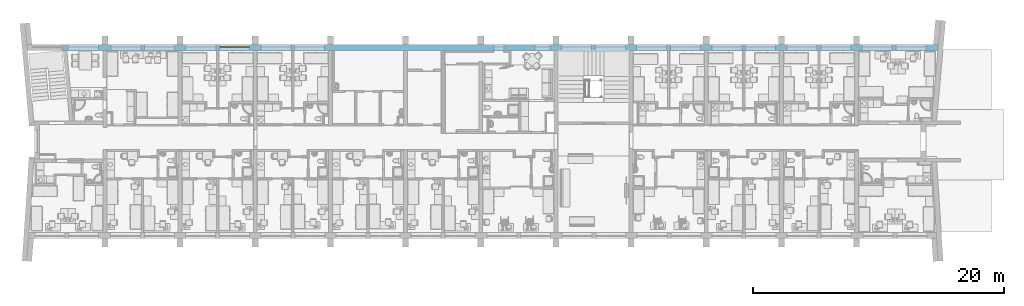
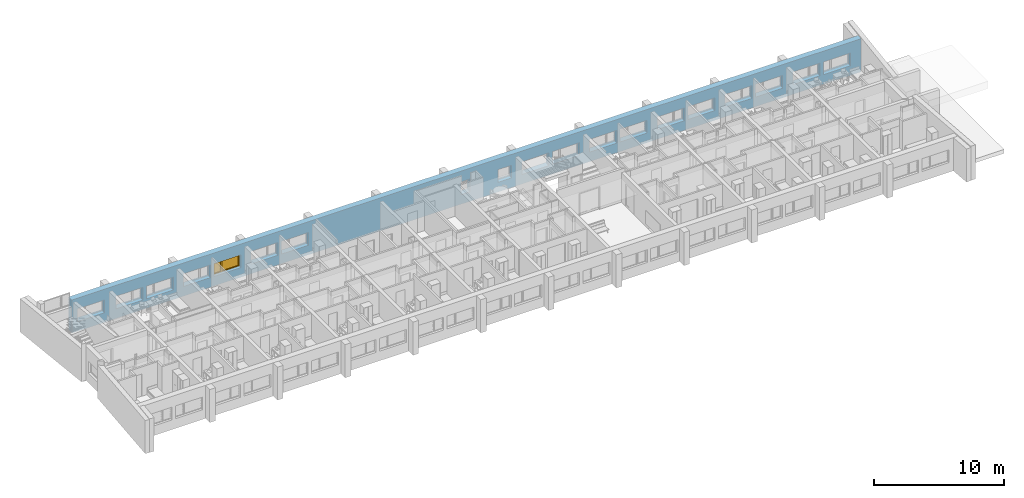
# One storey, part 21 of 172: 1 window, 19 openings, plus 1 element that does not belong to this part.
"""IFC2X3 building model written with IfcOpenShell, lengths in millimetres."""

from ifc_helpers import new_model, entity, si_unit, converted_unit, money_unit, direction, frame, origin_with_axes, place, context, subcontext, project, spatial, polyline, outline, extrude, open_shell, faceted_brep, surface_model, source, transform, mapped, material, material_list, layer, layer_set, layer_usage, type_object, element, fill, save


model = new_model("IFC2X3")

# Units and contexts
model_context = context("Model", 3, precision=1e-05, world=origin_with_axes(), true_north=direction((0.0, 1.0)))
body_context = subcontext(model_context, "Body", "Model", "MODEL_VIEW")
ifc_project = project(units=[si_unit("LENGTHUNIT", "METRE", prefix="MILLI"), si_unit("AREAUNIT", "SQUARE_METRE"), si_unit("VOLUMEUNIT", "CUBIC_METRE"), converted_unit("PLANEANGLEUNIT", "DEGREE", entity("IfcPlaneAngleMeasure", 0.0174532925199), si_unit("PLANEANGLEUNIT", "RADIAN"), dimensions=[0, 0, 0, 0, 0, 0, 0]), si_unit("SOLIDANGLEUNIT", "STERADIAN"), money_unit("USD"), converted_unit("TIMEUNIT", "Year", entity("IfcTimeMeasure", 31556926.0), si_unit("TIMEUNIT", "SECOND"), dimensions=[0, 0, 0, 0, 0, 0, 0]), si_unit("MASSUNIT", "GRAM"), si_unit("THERMODYNAMICTEMPERATUREUNIT", "DEGREE_CELSIUS"), si_unit("LUMINOUSINTENSITYUNIT", "LUMEN")], contexts=[model_context])

# Site, building, storey
site_placement = place(None, origin_with_axes())
site = spatial("IfcSite", under=ifc_project, at=site_placement, Name="Site", CompositionType="ELEMENT")
building_placement = place(site_placement, origin_with_axes())
building = spatial("IfcBuilding", under=site, at=building_placement, Name="Building", CompositionType="ELEMENT")
storey_placement = place(building_placement, frame((0.0, 0.0, 3200.0), z_axis=(0.0, 0.0, 1.0), x_axis=(1.0, 0.0, 0.0)))
storey = spatial("IfcBuildingStorey", under=building, at=storey_placement, Name="3KORRUS", CompositionType="ELEMENT", Elevation=3200.0)

# Wall, openings, window
ifc_material_1 = material(Name="Olemasolevad seinad tellis, uus viimistlus")
ifc_layer = layer(ifc_material_1, 500.0, ventilated="UNKNOWN")
ifc_layer_set = layer_set([ifc_layer], Name="Olemasolevad seinad tellis, uus viimistlus 500")
ifc_layer_usage = layer_usage(ifc_layer_set, "AXIS2", "POSITIVE", -100.0)
wall_type = type_object("IfcWallType", Name="Olemasolevad seinad tellis, uus viimistlus 500", PredefinedType="NOTDEFINED")
wall_placement = place(storey_placement, frame((-51569.3388124, -5039.6041088, 0.0), z_axis=(0.0, 0.0, 1.0), x_axis=(1.0, 0.0, 0.0)))
wall = element("IfcWallStandardCase", 1, at=wall_placement, inside=storey, type_object=wall_type, material=ifc_layer_usage, Name="VS1", ObjectType="VS1", context=body_context, shape_type="SweptSolid", body=[
    extrude(outline(polyline([(0.0, -100.0), (69914.7195482, -100.0), (69959.6995146, 400.0), (0.0, 400.0), (0.0, -100.0)])), origin_with_axes(), (0.0, 0.0, 1.0), 3100.0),
])
opening_1_placement = place(wall_placement, frame((34879.0421091, 0.0, 900.0), z_axis=(0.0, 0.0, 1.0), x_axis=(1.0, 0.0, 0.0)))
element("IfcOpeningElement", 2, at=opening_1_placement, cuts=wall, Name="WD - 001", context=body_context, shape_type="SweptSolid", body=[
    extrude(outline(polyline([(-400.0, 1200.0), (-400.0, 0.0), (400.0, 0.0), (400.0, 1200.0), (-400.0, 1200.0)])), frame((0.0, 200.0, 0.0), z_axis=(0.0, -1.0, 0.0), x_axis=(1.0, 0.0, 0.0)), (0.0, 0.0, 1.0), 800.0),
    extrude(outline(polyline([(-400.0, 0.0), (-400.0, -1200.0), (400.0, -1200.0), (400.0, 0.0), (-400.0, 0.0)])), frame((0.0, 200.0, 0.0), z_axis=(0.0, 1.0, 0.0), x_axis=(1.0, 0.0, 0.0)), (0.0, 0.0, 1.0), 700.0),
])
opening_2_placement = place(wall_placement, frame((38352.6323068, 0.0, 900.0), z_axis=(0.0, 0.0, 1.0), x_axis=(1.0, 0.0, 0.0)))
element("IfcOpeningElement", 3, at=opening_2_placement, cuts=wall, Name="A3", context=body_context, shape_type="SweptSolid", body=[
    extrude(outline(polyline([(-600.0, 1200.0), (-600.0, 0.0), (600.0, 0.0), (600.0, 1200.0), (-600.0, 1200.0)])), frame((0.0, 200.0, 0.0), z_axis=(0.0, -1.0, 0.0), x_axis=(1.0, 0.0, 0.0)), (0.0, 0.0, 1.0), 800.0),
    extrude(outline(polyline([(-600.0, 0.0), (-600.0, -1200.0), (600.0, -1200.0), (600.0, 0.0), (-600.0, 0.0)])), frame((0.0, 200.0, 0.0), z_axis=(0.0, 1.0, 0.0), x_axis=(1.0, 0.0, 0.0)), (0.0, 0.0, 1.0), 700.0),
])
opening_3_placement = place(wall_placement, frame((1700.0, 0.0, 900.0), z_axis=(0.0, 0.0, 1.0), x_axis=(1.0, 0.0, 0.0)))
element("IfcOpeningElement", 4, at=opening_3_placement, cuts=wall, Name="A1", context=body_context, shape_type="SweptSolid", body=[
    extrude(outline(polyline([(1200.0, 1200.0), (-1200.0, 1200.0), (-1200.0, 0.0), (1200.0, 0.0), (1200.0, 1200.0)])), frame((0.0, 200.0, 0.0), z_axis=(0.0, -1.0, 0.0), x_axis=(1.0, 0.0, 0.0)), (0.0, 0.0, 1.0), 800.0),
    extrude(outline(polyline([(1200.0, 0.0), (-1200.0, 0.0), (-1200.0, -1200.0), (1200.0, -1200.0), (1200.0, 0.0)])), frame((0.0, 200.0, 0.0), z_axis=(0.0, 1.0, 0.0), x_axis=(1.0, 0.0, 0.0)), (0.0, 0.0, 1.0), 700.0),
])
opening_4_placement = place(wall_placement, frame((7795.91085613, 0.0, 900.0), z_axis=(0.0, 0.0, 1.0), x_axis=(1.0, 0.0, 0.0)))
element("IfcOpeningElement", 5, at=opening_4_placement, cuts=wall, Name="A1", context=body_context, shape_type="SweptSolid", body=[
    extrude(outline(polyline([(1200.0, 1200.0), (-1200.0, 1200.0), (-1200.0, 0.0), (1200.0, 0.0), (1200.0, 1200.0)])), frame((0.0, 200.0, 0.0), z_axis=(0.0, -1.0, 0.0), x_axis=(1.0, 0.0, 0.0)), (0.0, 0.0, 1.0), 800.0),
    extrude(outline(polyline([(1200.0, 0.0), (-1200.0, 0.0), (-1200.0, -1200.0), (1200.0, -1200.0), (1200.0, 0.0)])), frame((0.0, 200.0, 0.0), z_axis=(0.0, 1.0, 0.0), x_axis=(1.0, 0.0, 0.0)), (0.0, 0.0, 1.0), 700.0),
])
opening_5_placement = place(wall_placement, frame((5095.91085613, 0.0, 900.0), z_axis=(0.0, 0.0, 1.0), x_axis=(1.0, 0.0, 0.0)))
element("IfcOpeningElement", 6, at=opening_5_placement, cuts=wall, Name="A2", context=body_context, shape_type="SweptSolid", body=[
    extrude(outline(polyline([(-1200.0, 1200.0), (-1200.0, 0.0), (1200.0, 0.0), (1200.0, 1200.0), (-1200.0, 1200.0)])), frame((0.0, 200.0, 0.0), z_axis=(0.0, -1.0, 0.0), x_axis=(1.0, 0.0, 0.0)), (0.0, 0.0, 1.0), 800.0),
    extrude(outline(polyline([(-1200.0, 0.0), (-1200.0, -1200.0), (1200.0, -1200.0), (1200.0, 0.0), (-1200.0, 0.0)])), frame((0.0, 200.0, 0.0), z_axis=(0.0, 1.0, 0.0), x_axis=(1.0, 0.0, 0.0)), (0.0, 0.0, 1.0), 700.0),
])
opening_6_placement = place(wall_placement, frame((13779.0421091, 0.0, 900.0), z_axis=(0.0, 0.0, 1.0), x_axis=(1.0, 0.0, 0.0)))
opening_6 = element("IfcOpeningElement", 7, at=opening_6_placement, cuts=wall, Name="A1", context=body_context, shape_type="SweptSolid", body=[
    extrude(outline(polyline([(1200.0, 1200.0), (-1200.0, 1200.0), (-1200.0, 0.0), (1200.0, 0.0), (1200.0, 1200.0)])), frame((0.0, 200.0, 0.0), z_axis=(0.0, -1.0, 0.0), x_axis=(1.0, 0.0, 0.0)), (0.0, 0.0, 1.0), 800.0),
    extrude(outline(polyline([(1200.0, 0.0), (-1200.0, 0.0), (-1200.0, -1200.0), (1200.0, -1200.0), (1200.0, 0.0)])), frame((0.0, 200.0, 0.0), z_axis=(0.0, 1.0, 0.0), x_axis=(1.0, 0.0, 0.0)), (0.0, 0.0, 1.0), 700.0),
])
opening_7_placement = place(wall_placement, frame((11079.0421091, 0.0, 900.0), z_axis=(0.0, 0.0, 1.0), x_axis=(1.0, 0.0, 0.0)))
element("IfcOpeningElement", 8, at=opening_7_placement, cuts=wall, Name="A2", context=body_context, shape_type="SweptSolid", body=[
    extrude(outline(polyline([(-1200.0, 1200.0), (-1200.0, 0.0), (1200.0, 0.0), (1200.0, 1200.0), (-1200.0, 1200.0)])), frame((0.0, 200.0, 0.0), z_axis=(0.0, -1.0, 0.0), x_axis=(1.0, 0.0, 0.0)), (0.0, 0.0, 1.0), 800.0),
    extrude(outline(polyline([(-1200.0, 0.0), (-1200.0, -1200.0), (1200.0, -1200.0), (1200.0, 0.0), (-1200.0, 0.0)])), frame((0.0, 200.0, 0.0), z_axis=(0.0, 1.0, 0.0), x_axis=(1.0, 0.0, 0.0)), (0.0, 0.0, 1.0), 700.0),
])
opening_8_placement = place(wall_placement, frame((43769.0421091, 0.0, 900.0), z_axis=(0.0, 0.0, 1.0), x_axis=(1.0, 0.0, 0.0)))
element("IfcOpeningElement", 9, at=opening_8_placement, cuts=wall, Name="A1", context=body_context, shape_type="SweptSolid", body=[
    extrude(outline(polyline([(1200.0, 1200.0), (-1200.0, 1200.0), (-1200.0, 0.0), (1200.0, 0.0), (1200.0, 1200.0)])), frame((0.0, 200.0, 0.0), z_axis=(0.0, -1.0, 0.0), x_axis=(1.0, 0.0, 0.0)), (0.0, 0.0, 1.0), 800.0),
    extrude(outline(polyline([(1200.0, 0.0), (-1200.0, 0.0), (-1200.0, -1200.0), (1200.0, -1200.0), (1200.0, 0.0)])), frame((0.0, 200.0, 0.0), z_axis=(0.0, 1.0, 0.0), x_axis=(1.0, 0.0, 0.0)), (0.0, 0.0, 1.0), 700.0),
])
opening_9_placement = place(wall_placement, frame((41069.0421091, 0.0, 900.0), z_axis=(0.0, 0.0, 1.0), x_axis=(1.0, 0.0, 0.0)))
element("IfcOpeningElement", 10, at=opening_9_placement, cuts=wall, Name="A2", context=body_context, shape_type="SweptSolid", body=[
    extrude(outline(polyline([(-1200.0, 1200.0), (-1200.0, 0.0), (1200.0, 0.0), (1200.0, 1200.0), (-1200.0, 1200.0)])), frame((0.0, 200.0, 0.0), z_axis=(0.0, -1.0, 0.0), x_axis=(1.0, 0.0, 0.0)), (0.0, 0.0, 1.0), 800.0),
    extrude(outline(polyline([(-1200.0, 0.0), (-1200.0, -1200.0), (1200.0, -1200.0), (1200.0, 0.0), (-1200.0, 0.0)])), frame((0.0, 200.0, 0.0), z_axis=(0.0, 1.0, 0.0), x_axis=(1.0, 0.0, 0.0)), (0.0, 0.0, 1.0), 700.0),
])
opening_10_placement = place(wall_placement, frame((49769.0421091, 0.0, 900.0), z_axis=(0.0, 0.0, 1.0), x_axis=(1.0, 0.0, 0.0)))
element("IfcOpeningElement", 11, at=opening_10_placement, cuts=wall, Name="A1", context=body_context, shape_type="SweptSolid", body=[
    extrude(outline(polyline([(1200.0, 1200.0), (-1200.0, 1200.0), (-1200.0, 0.0), (1200.0, 0.0), (1200.0, 1200.0)])), frame((0.0, 200.0, 0.0), z_axis=(0.0, -1.0, 0.0), x_axis=(1.0, 0.0, 0.0)), (0.0, 0.0, 1.0), 800.0),
    extrude(outline(polyline([(1200.0, 0.0), (-1200.0, 0.0), (-1200.0, -1200.0), (1200.0, -1200.0), (1200.0, 0.0)])), frame((0.0, 200.0, 0.0), z_axis=(0.0, 1.0, 0.0), x_axis=(1.0, 0.0, 0.0)), (0.0, 0.0, 1.0), 700.0),
])
opening_11_placement = place(wall_placement, frame((47069.0421091, 0.0, 900.0), z_axis=(0.0, 0.0, 1.0), x_axis=(1.0, 0.0, 0.0)))
element("IfcOpeningElement", 12, at=opening_11_placement, cuts=wall, Name="A2", context=body_context, shape_type="SweptSolid", body=[
    extrude(outline(polyline([(-1200.0, 1200.0), (-1200.0, 0.0), (1200.0, 0.0), (1200.0, 1200.0), (-1200.0, 1200.0)])), frame((0.0, 200.0, 0.0), z_axis=(0.0, -1.0, 0.0), x_axis=(1.0, 0.0, 0.0)), (0.0, 0.0, 1.0), 800.0),
    extrude(outline(polyline([(-1200.0, 0.0), (-1200.0, -1200.0), (1200.0, -1200.0), (1200.0, 0.0), (-1200.0, 0.0)])), frame((0.0, 200.0, 0.0), z_axis=(0.0, 1.0, 0.0), x_axis=(1.0, 0.0, 0.0)), (0.0, 0.0, 1.0), 700.0),
])
opening_12_placement = place(wall_placement, frame((55769.0421091, 0.0, 900.0), z_axis=(0.0, 0.0, 1.0), x_axis=(1.0, 0.0, 0.0)))
element("IfcOpeningElement", 13, at=opening_12_placement, cuts=wall, Name="A1", context=body_context, shape_type="SweptSolid", body=[
    extrude(outline(polyline([(1200.0, 1200.0), (-1200.0, 1200.0), (-1200.0, 0.0), (1200.0, 0.0), (1200.0, 1200.0)])), frame((0.0, 200.0, 0.0), z_axis=(0.0, -1.0, 0.0), x_axis=(1.0, 0.0, 0.0)), (0.0, 0.0, 1.0), 800.0),
    extrude(outline(polyline([(1200.0, 0.0), (-1200.0, 0.0), (-1200.0, -1200.0), (1200.0, -1200.0), (1200.0, 0.0)])), frame((0.0, 200.0, 0.0), z_axis=(0.0, 1.0, 0.0), x_axis=(1.0, 0.0, 0.0)), (0.0, 0.0, 1.0), 700.0),
])
opening_13_placement = place(wall_placement, frame((53069.0421091, 0.0, 900.0), z_axis=(0.0, 0.0, 1.0), x_axis=(1.0, 0.0, 0.0)))
element("IfcOpeningElement", 14, at=opening_13_placement, cuts=wall, Name="A2", context=body_context, shape_type="SweptSolid", body=[
    extrude(outline(polyline([(-1200.0, 1200.0), (-1200.0, 0.0), (1200.0, 0.0), (1200.0, 1200.0), (-1200.0, 1200.0)])), frame((0.0, 200.0, 0.0), z_axis=(0.0, -1.0, 0.0), x_axis=(1.0, 0.0, 0.0)), (0.0, 0.0, 1.0), 800.0),
    extrude(outline(polyline([(-1200.0, 0.0), (-1200.0, -1200.0), (1200.0, -1200.0), (1200.0, 0.0), (-1200.0, 0.0)])), frame((0.0, 200.0, 0.0), z_axis=(0.0, 1.0, 0.0), x_axis=(1.0, 0.0, 0.0)), (0.0, 0.0, 1.0), 700.0),
])
opening_14_placement = place(wall_placement, frame((61769.0421091, 0.0, 900.0), z_axis=(0.0, 0.0, 1.0), x_axis=(1.0, 0.0, 0.0)))
element("IfcOpeningElement", 15, at=opening_14_placement, cuts=wall, Name="A1", context=body_context, shape_type="SweptSolid", body=[
    extrude(outline(polyline([(1200.0, 1200.0), (-1200.0, 1200.0), (-1200.0, 0.0), (1200.0, 0.0), (1200.0, 1200.0)])), frame((0.0, 200.0, 0.0), z_axis=(0.0, -1.0, 0.0), x_axis=(1.0, 0.0, 0.0)), (0.0, 0.0, 1.0), 800.0),
    extrude(outline(polyline([(1200.0, 0.0), (-1200.0, 0.0), (-1200.0, -1200.0), (1200.0, -1200.0), (1200.0, 0.0)])), frame((0.0, 200.0, 0.0), z_axis=(0.0, 1.0, 0.0), x_axis=(1.0, 0.0, 0.0)), (0.0, 0.0, 1.0), 700.0),
])
opening_15_placement = place(wall_placement, frame((59069.0421091, 0.0, 900.0), z_axis=(0.0, 0.0, 1.0), x_axis=(1.0, 0.0, 0.0)))
element("IfcOpeningElement", 16, at=opening_15_placement, cuts=wall, Name="A2", context=body_context, shape_type="SweptSolid", body=[
    extrude(outline(polyline([(-1200.0, 1200.0), (-1200.0, 0.0), (1200.0, 0.0), (1200.0, 1200.0), (-1200.0, 1200.0)])), frame((0.0, 200.0, 0.0), z_axis=(0.0, -1.0, 0.0), x_axis=(1.0, 0.0, 0.0)), (0.0, 0.0, 1.0), 800.0),
    extrude(outline(polyline([(-1200.0, 0.0), (-1200.0, -1200.0), (1200.0, -1200.0), (1200.0, 0.0), (-1200.0, 0.0)])), frame((0.0, 200.0, 0.0), z_axis=(0.0, 1.0, 0.0), x_axis=(1.0, 0.0, 0.0)), (0.0, 0.0, 1.0), 700.0),
])
opening_16_placement = place(wall_placement, frame((67773.3244043, 0.0, 900.0), z_axis=(0.0, 0.0, 1.0), x_axis=(1.0, 0.0, 0.0)))
element("IfcOpeningElement", 17, at=opening_16_placement, cuts=wall, Name="A1", context=body_context, shape_type="SweptSolid", body=[
    extrude(outline(polyline([(1200.0, 1200.0), (-1200.0, 1200.0), (-1200.0, 0.0), (1200.0, 0.0), (1200.0, 1200.0)])), frame((0.0, 200.0, 0.0), z_axis=(0.0, -1.0, 0.0), x_axis=(1.0, 0.0, 0.0)), (0.0, 0.0, 1.0), 800.0),
    extrude(outline(polyline([(1200.0, 0.0), (-1200.0, 0.0), (-1200.0, -1200.0), (1200.0, -1200.0), (1200.0, 0.0)])), frame((0.0, 200.0, 0.0), z_axis=(0.0, 1.0, 0.0), x_axis=(1.0, 0.0, 0.0)), (0.0, 0.0, 1.0), 700.0),
])
opening_17_placement = place(wall_placement, frame((65073.3244043, 0.0, 900.0), z_axis=(0.0, 0.0, 1.0), x_axis=(1.0, 0.0, 0.0)))
element("IfcOpeningElement", 18, at=opening_17_placement, cuts=wall, Name="A2", context=body_context, shape_type="SweptSolid", body=[
    extrude(outline(polyline([(-1200.0, 1200.0), (-1200.0, 0.0), (1200.0, 0.0), (1200.0, 1200.0), (-1200.0, 1200.0)])), frame((0.0, 200.0, 0.0), z_axis=(0.0, -1.0, 0.0), x_axis=(1.0, 0.0, 0.0)), (0.0, 0.0, 1.0), 800.0),
    extrude(outline(polyline([(-1200.0, 0.0), (-1200.0, -1200.0), (1200.0, -1200.0), (1200.0, 0.0), (-1200.0, 0.0)])), frame((0.0, 200.0, 0.0), z_axis=(0.0, 1.0, 0.0), x_axis=(1.0, 0.0, 0.0)), (0.0, 0.0, 1.0), 700.0),
])
opening_18_placement = place(wall_placement, frame((19767.4765851, 0.0, 900.0), z_axis=(0.0, 0.0, 1.0), x_axis=(1.0, 0.0, 0.0)))
element("IfcOpeningElement", 19, at=opening_18_placement, cuts=wall, Name="A1", context=body_context, shape_type="SweptSolid", body=[
    extrude(outline(polyline([(1200.0, 1200.0), (-1200.0, 1200.0), (-1200.0, 0.0), (1200.0, 0.0), (1200.0, 1200.0)])), frame((0.0, 200.0, 0.0), z_axis=(0.0, -1.0, 0.0), x_axis=(1.0, 0.0, 0.0)), (0.0, 0.0, 1.0), 800.0),
    extrude(outline(polyline([(1200.0, 0.0), (-1200.0, 0.0), (-1200.0, -1200.0), (1200.0, -1200.0), (1200.0, 0.0)])), frame((0.0, 200.0, 0.0), z_axis=(0.0, 1.0, 0.0), x_axis=(1.0, 0.0, 0.0)), (0.0, 0.0, 1.0), 700.0),
])
opening_19_placement = place(wall_placement, frame((17067.4765851, 0.0, 900.0), z_axis=(0.0, 0.0, 1.0), x_axis=(1.0, 0.0, 0.0)))
element("IfcOpeningElement", 20, at=opening_19_placement, cuts=wall, Name="A2", context=body_context, shape_type="SweptSolid", body=[
    extrude(outline(polyline([(-1200.0, 1200.0), (-1200.0, 0.0), (1200.0, 0.0), (1200.0, 1200.0), (-1200.0, 1200.0)])), frame((0.0, 200.0, 0.0), z_axis=(0.0, -1.0, 0.0), x_axis=(1.0, 0.0, 0.0)), (0.0, 0.0, 1.0), 800.0),
    extrude(outline(polyline([(-1200.0, 0.0), (-1200.0, -1200.0), (1200.0, -1200.0), (1200.0, 0.0), (-1200.0, 0.0)])), frame((0.0, 200.0, 0.0), z_axis=(0.0, 1.0, 0.0), x_axis=(1.0, 0.0, 0.0)), (0.0, 0.0, 1.0), 700.0),
])
ifc_material_2 = material(Name="Background")
ifc_material_list = material_list([ifc_material_2])
window_style = type_object("IfcWindowStyle", Name="Double Window 19", ConstructionType="NOTDEFINED", OperationType="DOUBLE_PANEL_VERTICAL", ParameterTakesPrecedence=False, Sizeable=False)
shared_shape = source(origin_with_axes(), body_context, "Body", "SurfaceModel", [
    faceted_brep([(1175.0, -200.0, 1150.0), (1175.0, -225.0, 1150.0), (1150.0, -225.0, 1150.0), (1150.0, -250.0, 1150.0), (1200.0, -250.0, 1150.0), (1200.0, -200.0, 1150.0), (1175.0, -200.0, 50.0), (1175.0, -225.0, 50.0), (1150.0, -225.0, 50.0), (1150.0, -250.0, 50.0), (1200.0, -250.0, 50.0), (1200.0, -200.0, 50.0)], [[[0, 1, 2, 3, 4, 5]], [[1, 0, 6, 7]], [[8, 2, 1, 7]], [[2, 8, 9, 3]], [[4, 3, 9, 10]], [[5, 4, 10, 11]], [[6, 0, 5, 11]], [[7, 6, 11, 10, 9, 8]]]),
    faceted_brep([(-1150.0, -225.0, 1150.0), (-1175.0, -225.0, 1150.0), (-1175.0, -200.0, 1150.0), (-1200.0, -200.0, 1150.0), (-1200.0, -250.0, 1150.0), (-1150.0, -250.0, 1150.0), (-1150.0, -225.0, 50.0), (-1175.0, -225.0, 50.0), (-1175.0, -200.0, 50.0), (-1200.0, -200.0, 50.0), (-1200.0, -250.0, 50.0), (-1150.0, -250.0, 50.0)], [[[0, 1, 2, 3, 4, 5]], [[1, 0, 6, 7]], [[8, 2, 1, 7]], [[2, 8, 9, 3]], [[9, 10, 4, 3]], [[10, 11, 5, 4]], [[6, 0, 5, 11]], [[7, 6, 11, 10, 9, 8]]]),
    faceted_brep([(-350.0, -225.0, 1150.0), (-375.0, -225.0, 1150.0), (-375.0, -200.0, 1150.0), (-425.0, -200.0, 1150.0), (-425.0, -225.0, 1150.0), (-450.0, -225.0, 1150.0), (-450.0, -250.0, 1150.0), (-350.0, -250.0, 1150.0), (-350.0, -225.0, 50.0), (-375.0, -225.0, 50.0), (-375.0, -200.0, 50.0), (-425.0, -200.0, 50.0), (-425.0, -225.0, 50.0), (-450.0, -225.0, 50.0), (-450.0, -250.0, 50.0), (-350.0, -250.0, 50.0)], [[[0, 1, 2, 3, 4, 5, 6, 7]], [[1, 0, 8, 9]], [[10, 2, 1, 9]], [[2, 10, 11, 3]], [[4, 3, 11, 12]], [[13, 5, 4, 12]], [[5, 13, 14, 6]], [[14, 15, 7, 6]], [[8, 0, 7, 15]], [[9, 8, 15, 14, 13, 12, 11, 10]]]),
    faceted_brep([(-350.0, -225.0, 50.0), (-375.0, -225.0, 50.0), (-375.0, -200.0, 50.0), (-425.0, -200.0, 50.0), (-425.0, -225.0, 50.0), (-450.0, -225.0, 50.0), (-450.0, -250.0, 50.0), (-350.0, -250.0, 50.0), (1150.0, -225.0, 50.0), (1175.0, -225.0, 50.0), (1175.0, -225.0, 25.0), (-375.0, -225.0, 25.0), (-375.0, -200.0, 25.0), (1175.0, -200.0, 25.0), (1175.0, -200.0, 50.0), (1200.0, -200.0, 50.0), (1200.0, -200.0, 0.0), (-1200.0, -200.0, 0.0), (-1200.0, -200.0, 50.0), (-1175.0, -200.0, 50.0), (-1175.0, -200.0, 25.0), (-425.0, -200.0, 25.0), (-425.0, -225.0, 25.0), (-1175.0, -225.0, 50.0), (-1150.0, -225.0, 50.0), (-1175.0, -225.0, 25.0), (-1150.0, -250.0, 50.0), (1200.0, -250.0, 50.0), (1150.0, -250.0, 50.0), (-1200.0, -250.0, 50.0), (-1200.0, -250.0, 0.0), (1200.0, -250.0, 0.0)], [[[0, 1, 2, 3, 4, 5, 6, 7]], [[1, 0, 8, 9, 10, 11]], [[12, 2, 1, 11]], [[13, 14, 15, 16, 17, 18, 19, 20, 21, 3, 2, 12]], [[4, 3, 21, 22]], [[23, 24, 5, 4, 22, 25]], [[5, 24, 26, 6]], [[27, 28, 7, 6, 26, 29, 30, 31]], [[8, 0, 7, 28]], [[9, 8, 28, 27, 15, 14]], [[9, 14, 13, 10]], [[13, 12, 11, 10]], [[15, 27, 31, 16]], [[16, 31, 30, 17]], [[17, 30, 29, 18]], [[24, 23, 19, 18, 29, 26]], [[20, 19, 23, 25]], [[21, 20, 25, 22]]]),
    faceted_brep([(1175.0, -200.0, 1150.0), (1175.0, -200.0, 1175.0), (-375.0, -200.0, 1175.0), (-375.0, -200.0, 1150.0), (-425.0, -200.0, 1150.0), (-425.0, -200.0, 1175.0), (-1175.0, -200.0, 1175.0), (-1175.0, -200.0, 1150.0), (-1200.0, -200.0, 1150.0), (-1200.0, -200.0, 1200.0), (1200.0, -200.0, 1200.0), (1200.0, -200.0, 1150.0), (1175.0, -225.0, 1150.0), (1175.0, -225.0, 1175.0), (-375.0, -225.0, 1175.0), (-375.0, -225.0, 1150.0), (-350.0, -225.0, 1150.0), (-350.0, -250.0, 1150.0), (-450.0, -250.0, 1150.0), (-450.0, -225.0, 1150.0), (-425.0, -225.0, 1150.0), (-425.0, -225.0, 1175.0), (-1175.0, -225.0, 1175.0), (-1175.0, -225.0, 1150.0), (-1150.0, -225.0, 1150.0), (-1150.0, -250.0, 1150.0), (-1200.0, -250.0, 1150.0), (-1200.0, -250.0, 1200.0), (1200.0, -250.0, 1200.0), (1200.0, -250.0, 1150.0), (1150.0, -250.0, 1150.0), (1150.0, -225.0, 1150.0)], [[[0, 1, 2, 3, 4, 5, 6, 7, 8, 9, 10, 11]], [[1, 0, 12, 13]], [[2, 1, 13, 14]], [[3, 2, 14, 15]], [[15, 16, 17, 18, 19, 20, 4, 3]], [[5, 4, 20, 21]], [[6, 5, 21, 22]], [[7, 6, 22, 23]], [[23, 24, 25, 26, 8, 7]], [[8, 26, 27, 9]], [[9, 27, 28, 10]], [[10, 28, 29, 11]], [[12, 0, 11, 29, 30, 31]], [[16, 15, 14, 13, 12, 31]], [[16, 31, 30, 17]], [[18, 17, 30, 29, 28, 27, 26, 25]], [[24, 19, 18, 25]], [[24, 23, 22, 21, 20, 19]]]),
    faceted_brep([(1125.0, -225.0, 1125.0), (1175.0, -225.0, 1125.0), (1175.0, -175.0, 1125.0), (1125.0, -175.0, 1125.0), (1125.0, -225.0, 75.0), (1175.0, -225.0, 75.0), (1175.0, -175.0, 75.0), (1125.0, -175.0, 75.0)], [[[0, 1, 2, 3]], [[0, 4, 5, 1]], [[1, 5, 6, 2]], [[3, 2, 6, 7]], [[4, 0, 3, 7]], [[5, 4, 7, 6]]]),
    faceted_brep([(-325.0, -225.0, 75.0), (-375.0, -225.0, 75.0), (-375.0, -175.0, 75.0), (-325.0, -175.0, 75.0), (-325.0, -225.0, 1125.0), (-375.0, -225.0, 1125.0), (-375.0, -175.0, 1125.0), (-325.0, -175.0, 1125.0)], [[[0, 1, 2, 3]], [[0, 4, 5, 1]], [[1, 5, 6, 2]], [[3, 2, 6, 7]], [[4, 0, 3, 7]], [[5, 4, 7, 6]]]),
    faceted_brep([(-375.0, -225.0, 25.0), (-375.0, -225.0, 75.0), (-375.0, -175.0, 75.0), (-375.0, -175.0, 25.0), (1175.0, -225.0, 25.0), (1175.0, -225.0, 75.0), (1125.0, -225.0, 75.0), (-325.0, -225.0, 75.0), (-325.0, -175.0, 75.0), (1125.0, -175.0, 75.0), (1175.0, -175.0, 75.0), (1175.0, -175.0, 25.0)], [[[0, 1, 2, 3]], [[0, 4, 5, 6, 7, 1]], [[1, 7, 8, 2]], [[3, 2, 8, 9, 10, 11]], [[4, 0, 3, 11]], [[5, 4, 11, 10]], [[6, 5, 10, 9]], [[7, 6, 9, 8]]]),
    faceted_brep([(1175.0, -225.0, 1175.0), (1175.0, -225.0, 1125.0), (1175.0, -175.0, 1125.0), (1175.0, -175.0, 1175.0), (-375.0, -225.0, 1175.0), (-375.0, -225.0, 1125.0), (-325.0, -225.0, 1125.0), (1125.0, -225.0, 1125.0), (1125.0, -175.0, 1125.0), (-325.0, -175.0, 1125.0), (-375.0, -175.0, 1125.0), (-375.0, -175.0, 1175.0)], [[[0, 1, 2, 3]], [[0, 4, 5, 6, 7, 1]], [[1, 7, 8, 2]], [[3, 2, 8, 9, 10, 11]], [[4, 0, 3, 11]], [[5, 4, 11, 10]], [[6, 5, 10, 9]], [[7, 6, 9, 8]]]),
    surface_model("IfcShellBasedSurfaceModel", [(1125.0, -210.0, 75.0), (1125.0, -210.0, 1125.0), (-325.0, -210.0, 1125.0), (-325.0, -210.0, 75.0)], [open_shell([[[0, 1, 2, 3]]])]),
    surface_model("IfcShellBasedSurfaceModel", [(1125.0, -190.0, 75.0), (-325.0, -190.0, 75.0), (-325.0, -190.0, 1125.0), (1125.0, -190.0, 1125.0)], [open_shell([[[0, 1, 2, 3]]])]),
    faceted_brep([(-475.0, -225.0, 1125.0), (-425.0, -225.0, 1125.0), (-425.0, -175.0, 1125.0), (-475.0, -175.0, 1125.0), (-475.0, -225.0, 75.0), (-425.0, -225.0, 75.0), (-425.0, -175.0, 75.0), (-475.0, -175.0, 75.0)], [[[0, 1, 2, 3]], [[0, 4, 5, 1]], [[1, 5, 6, 2]], [[3, 2, 6, 7]], [[4, 0, 3, 7]], [[5, 4, 7, 6]]]),
    faceted_brep([(-1125.0, -225.0, 75.0), (-1175.0, -225.0, 75.0), (-1175.0, -175.0, 75.0), (-1125.0, -175.0, 75.0), (-1125.0, -225.0, 1125.0), (-1175.0, -225.0, 1125.0), (-1175.0, -175.0, 1125.0), (-1125.0, -175.0, 1125.0)], [[[0, 1, 2, 3]], [[0, 4, 5, 1]], [[1, 5, 6, 2]], [[3, 2, 6, 7]], [[4, 0, 3, 7]], [[5, 4, 7, 6]]]),
    faceted_brep([(-1175.0, -225.0, 25.0), (-1175.0, -225.0, 75.0), (-1175.0, -175.0, 75.0), (-1175.0, -175.0, 25.0), (-425.0, -225.0, 25.0), (-425.0, -225.0, 75.0), (-475.0, -225.0, 75.0), (-1125.0, -225.0, 75.0), (-1125.0, -175.0, 75.0), (-475.0, -175.0, 75.0), (-425.0, -175.0, 75.0), (-425.0, -175.0, 25.0)], [[[0, 1, 2, 3]], [[0, 4, 5, 6, 7, 1]], [[1, 7, 8, 2]], [[3, 2, 8, 9, 10, 11]], [[4, 0, 3, 11]], [[5, 4, 11, 10]], [[6, 5, 10, 9]], [[7, 6, 9, 8]]]),
    faceted_brep([(-425.0, -225.0, 1175.0), (-425.0, -225.0, 1125.0), (-425.0, -175.0, 1125.0), (-425.0, -175.0, 1175.0), (-1175.0, -225.0, 1175.0), (-1175.0, -225.0, 1125.0), (-1125.0, -225.0, 1125.0), (-475.0, -225.0, 1125.0), (-475.0, -175.0, 1125.0), (-1125.0, -175.0, 1125.0), (-1175.0, -175.0, 1125.0), (-1175.0, -175.0, 1175.0)], [[[0, 1, 2, 3]], [[0, 4, 5, 6, 7, 1]], [[1, 7, 8, 2]], [[3, 2, 8, 9, 10, 11]], [[4, 0, 3, 11]], [[5, 4, 11, 10]], [[6, 5, 10, 9]], [[7, 6, 9, 8]]]),
    surface_model("IfcShellBasedSurfaceModel", [(-475.0, -210.0, 75.0), (-475.0, -210.0, 1125.0), (-1125.0, -210.0, 1125.0), (-1125.0, -210.0, 75.0)], [open_shell([[[0, 1, 2, 3]]])]),
    surface_model("IfcShellBasedSurfaceModel", [(-475.0, -190.0, 75.0), (-1125.0, -190.0, 75.0), (-1125.0, -190.0, 1125.0), (-475.0, -190.0, 1125.0)], [open_shell([[[0, 1, 2, 3]]])]),
])
window_placement = place(opening_6_placement, frame((-1200.0, 0.0, 0.0), z_axis=(0.0, 0.0, 1.0), x_axis=(1.0, 0.0, 0.0)))
window = element("IfcWindow", 21, at=window_placement, inside=storey, type_object=window_style, material=ifc_material_list, Name="A1", ObjectType="A1", OverallHeight=1200.0, OverallWidth=2400.0, context=body_context, shape_type="MappedRepresentation", body=[
    mapped(shared_shape, transform((1200.0, 400.0, 0.0))),
])
fill(opening_6, window)

save(model, "model.ifc")
